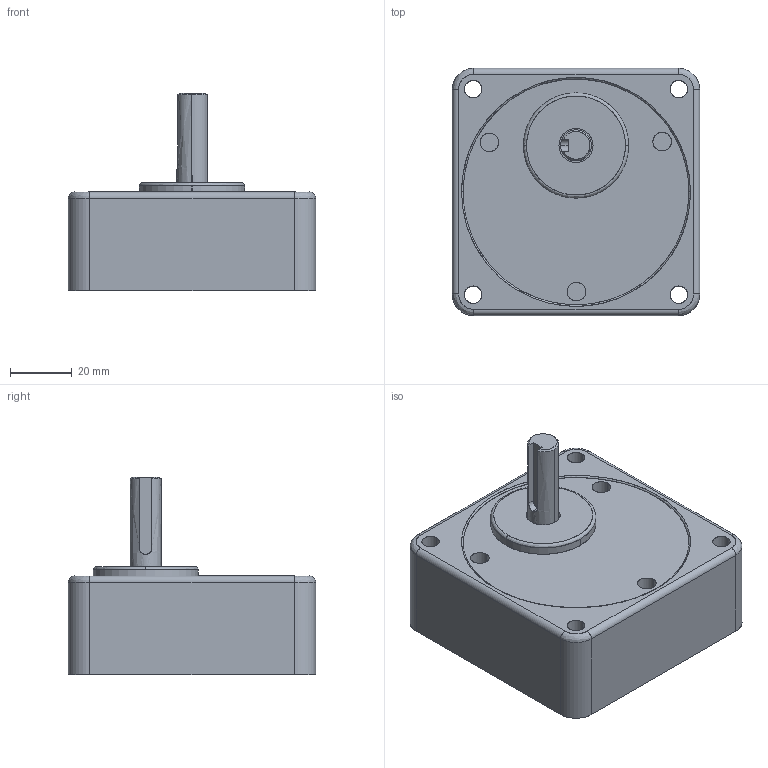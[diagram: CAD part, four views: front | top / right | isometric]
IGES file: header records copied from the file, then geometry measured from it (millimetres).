
Start section: SolidWorks IGES file using analytic representation for surfaces
Global section: file name: C:\Documents and Settings\user\ｹﾙﾅﾁ ﾈｭｸ饅(12-5) 8GBK｡滷MH(3~18).IGS,1; native system: 5HSolidWorks 2007; preprocessor: SolidWorks 2007; author: user; date: 150825.152603; units: millimetre
Bounding box: 80 x 80 x 64 mm (x, y, z)
Surface area: 27553.1 mm2 (no closed solid volume)
Topology: 0 solids, 0 shells, 63 faces, 1360 edges, 1359 vertices
Faces by surface type: revolution 37, bspline 26
